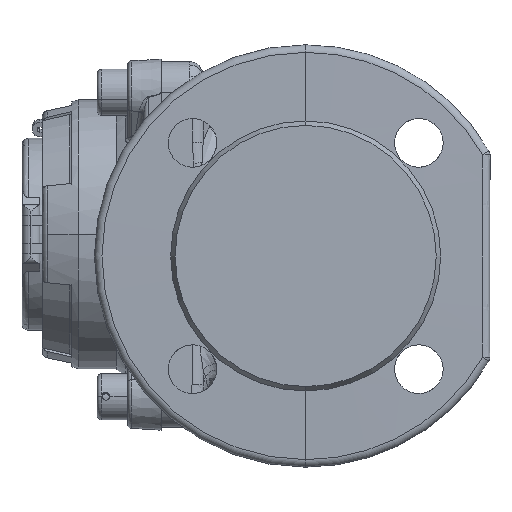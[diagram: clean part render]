
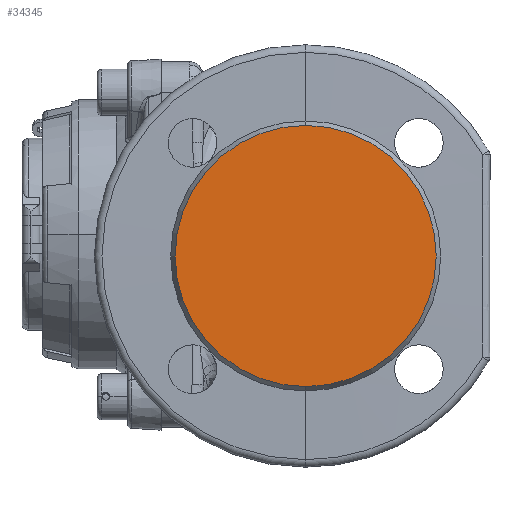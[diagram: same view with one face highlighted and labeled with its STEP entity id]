
A CAD part, left-side view. The second image highlights one B-rep face of the part: STEP entity #34345.
In plain terms, the highlighted planar face has unit normal (-1, 0, 0).
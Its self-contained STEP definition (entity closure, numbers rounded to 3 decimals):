
#2929 = CARTESIAN_POINT ( 'NONE',  ( -100., 0.392, -8.931 ) ) ;
#6945 = DIRECTION ( 'NONE',  ( 0., 0., -1. ) ) ;
#7278 = PLANE ( 'NONE',  #14441 ) ;
#14441 = AXIS2_PLACEMENT_3D ( 'NONE', #42385, #17877, #38389 ) ;
#15971 = AXIS2_PLACEMENT_3D ( 'NONE', #59414, #24983, #29942 ) ;
#17877 = DIRECTION ( 'NONE',  ( -1., 0., 0. ) ) ;
#19772 = CARTESIAN_POINT ( 'NONE',  ( -100., 0.392, -59.931 ) ) ;
#24983 = DIRECTION ( 'NONE',  ( 1., 0., 0. ) ) ;
#29656 = ORIENTED_EDGE ( 'NONE', *, *, #61386, .F. ) ;
#29942 = DIRECTION ( 'NONE',  ( 0., 0., -1. ) ) ;
#31027 = EDGE_CURVE ( 'NONE', #40928, #31365, #59658, .T. ) ;
#31111 = AXIS2_PLACEMENT_3D ( 'NONE', #2929, #48316, #6945 ) ;
#31365 = VERTEX_POINT ( 'NONE', #19772 ) ;
#31459 = CARTESIAN_POINT ( 'NONE',  ( -100., 0.392, 42.069 ) ) ;
#34345 = ADVANCED_FACE ( 'NONE', ( #42697 ), #7278, .T. ) ;
#36046 = CIRCLE ( 'NONE', #15971, 51. ) ;
#38389 = DIRECTION ( 'NONE',  ( 0., 0., 1. ) ) ;
#40928 = VERTEX_POINT ( 'NONE', #31459 ) ;
#42385 = CARTESIAN_POINT ( 'NONE',  ( -100., 0.392, -8.931 ) ) ;
#42697 = FACE_OUTER_BOUND ( 'NONE', #43518, .T. ) ;
#43502 = ORIENTED_EDGE ( 'NONE', *, *, #31027, .F. ) ;
#43518 = EDGE_LOOP ( 'NONE', ( #29656, #43502 ) ) ;
#48316 = DIRECTION ( 'NONE',  ( 1., 0., 0. ) ) ;
#59414 = CARTESIAN_POINT ( 'NONE',  ( -100., 0.392, -8.931 ) ) ;
#59658 = CIRCLE ( 'NONE', #31111, 51. ) ;
#61386 = EDGE_CURVE ( 'NONE', #31365, #40928, #36046, .T. ) ;
